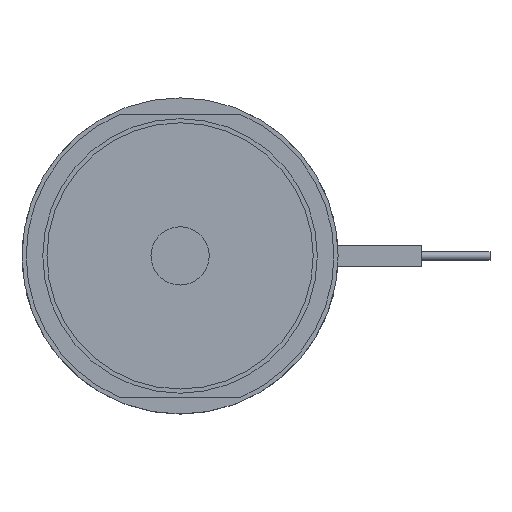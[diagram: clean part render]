
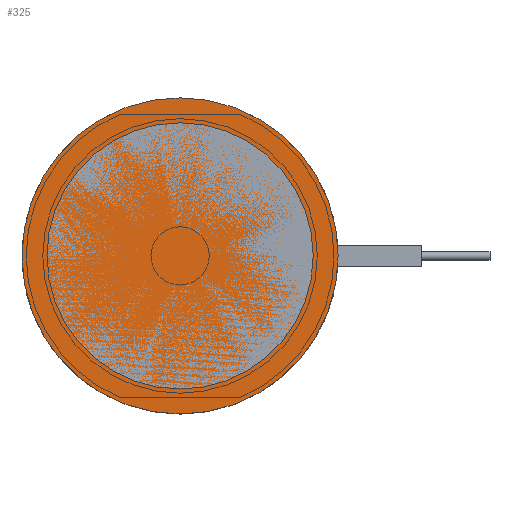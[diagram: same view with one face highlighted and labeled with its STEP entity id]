
A CAD part, top view. The second image highlights one B-rep face of the part: STEP entity #325.
In plain terms, the highlighted planar face has unit normal (0, 0, 1).
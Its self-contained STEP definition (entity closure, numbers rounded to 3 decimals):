
#239=CIRCLE('',#1154,19.);
#325=ADVANCED_FACE('',(#427),#389,.F.);
#389=PLANE('',#1155);
#427=FACE_OUTER_BOUND('',#514,.T.);
#514=EDGE_LOOP('',(#654));
#654=ORIENTED_EDGE('',*,*,#945,.F.);
#849=VERTEX_POINT('',#1699);
#945=EDGE_CURVE('',#849,#849,#239,.T.);
#1154=AXIS2_PLACEMENT_3D('',#1698,#1364,#1365);
#1155=AXIS2_PLACEMENT_3D('',#1700,#1366,#1367);
#1364=DIRECTION('',(0.,0.,-1.));
#1365=DIRECTION('',(-1.,0.,0.));
#1366=DIRECTION('',(0.,0.,-1.));
#1367=DIRECTION('',(-1.,0.,0.));
#1698=CARTESIAN_POINT('',(0.,0.,0.));
#1699=CARTESIAN_POINT('',(-19.,0.,0.));
#1700=CARTESIAN_POINT('',(0.,0.,0.));
